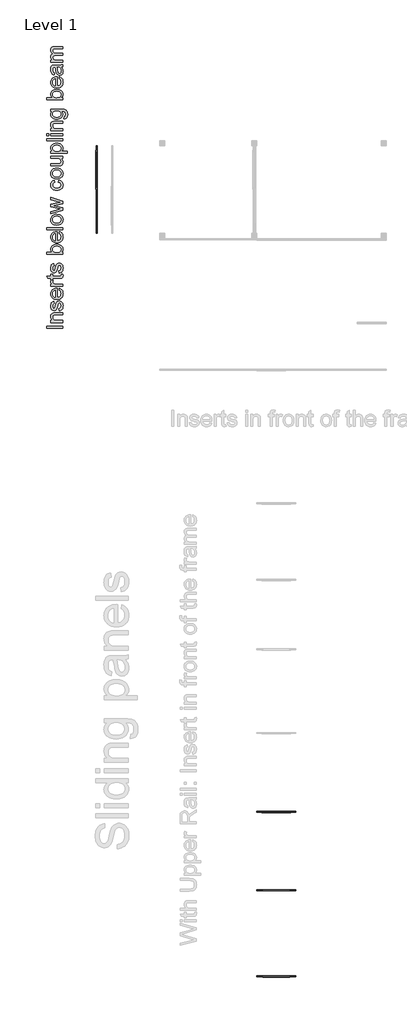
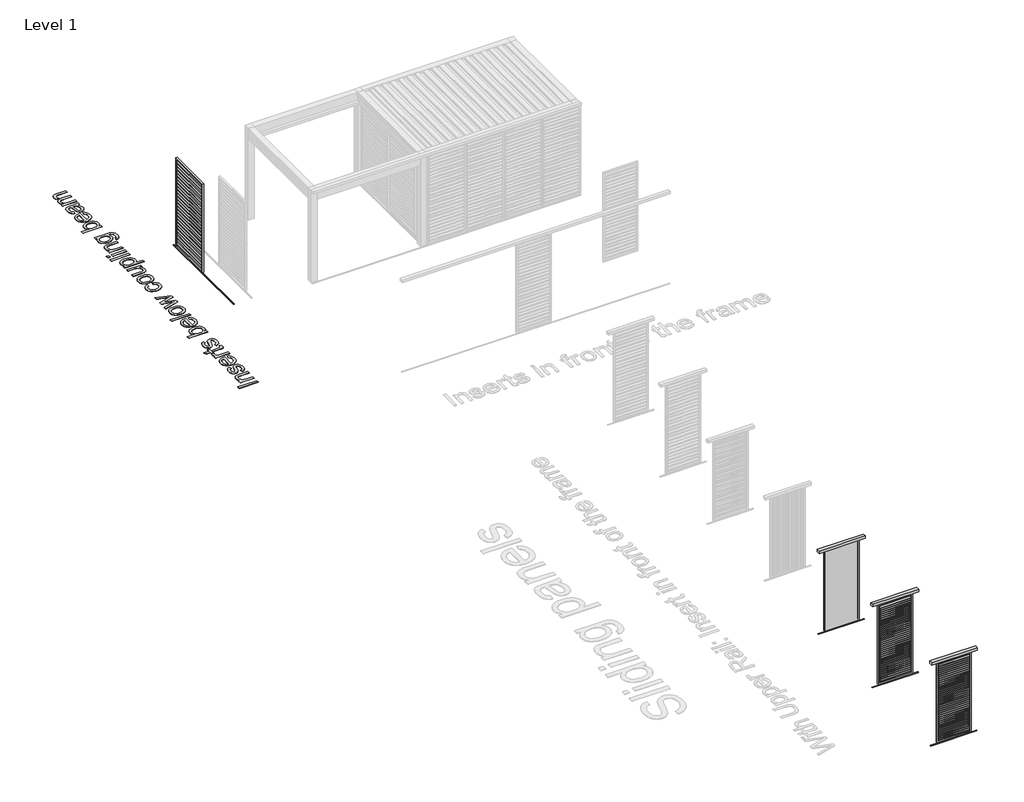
# One storey, part 23 of 80: 5 proxies.
"""IFC4 building model written with IfcOpenShell, lengths in millimetres."""

from ifc_helpers import new_model, si_unit, origin, origin_with_axes, place, context, project, spatial, polyline, outline, extrude, transform, mapped, element, save
from components import generic_models_cdf295df, generic_models_89bc0f4a, generic_models_1648a54b

model = new_model("IFC4")

# Units and contexts
model_context = context("Model", 3, world=origin())
ifc_project = project(units=[si_unit("LENGTHUNIT", "METRE", prefix="MILLI")], contexts=[model_context])

# Site, building, storey
site = spatial("IfcSite", under=ifc_project)
building = spatial("IfcBuilding", under=site)
storey = spatial("IfcBuildingStorey", under=building, Name="Level 1", Elevation=0.0)

# Proxies
placement = place(None, origin())
generic_models_shape = generic_models_cdf295df(model_context)
element("IfcBuildingElementProxy", 1, Name="Renson_Amani_Loggia_Paro_Aluminium_Sliding : Renson_Amani_Loggia_Paro_Aluminium_Sliding", ObjectType="Renson_Amani_Loggia_Paro_Aluminium_Sliding : Renson_Amani_Loggia_Paro_Aluminium_Sliding", at=placement, inside=storey, context=model_context, shape_type="MappedRepresentation", body=[
    mapped(generic_models_shape, transform((413556.3699543, -38944.9696571, 0.0), x_axis=(0.0, -1.0, 0.0), y_axis=(1.0, 0.0, 0.0), z_axis=(0.0, 0.0, 1.0))),
])
generic_models_2_shape = generic_models_89bc0f4a(model_context)
element("IfcBuildingElementProxy", 2, Name="Renson_Amani_Loggia_Canvas_Sliding : Renson_Amani_Loggia_Canvas_Sliding", ObjectType="Renson_Amani_Loggia_Canvas_Sliding : Renson_Amani_Loggia_Canvas_Sliding", at=placement, inside=storey, context=model_context, shape_type="MappedRepresentation", body=[
    mapped(generic_models_2_shape, transform((419110.5749426, -58798.6117458, 0.0), x_axis=(1.0, 0.0, 0.0), y_axis=(0.0, 1.0, 0.0), z_axis=(0.0, 0.0, 1.0))),
])
generic_models_3_shape = generic_models_1648a54b(model_context)
element("IfcBuildingElementProxy", 3, Name="Renson_Amani_Loggia_Paro_Privacy_Aluminium_Sliding : Renson_Amani_Loggia_Paro_Privacy_Aluminium_Sliding", ObjectType="Renson_Amani_Loggia_Paro_Privacy_Aluminium_Sliding : Renson_Amani_Loggia_Paro_Privacy_Aluminium_Sliding", at=placement, inside=storey, context=model_context, shape_type="MappedRepresentation", body=[
    mapped(generic_models_3_shape, transform((419110.5749426, -61223.4916306, 0.0), x_axis=(1.0, 0.0, 0.0), y_axis=(0.0, 1.0, 0.0), z_axis=(0.0, 0.0, 1.0))),
])
element("IfcBuildingElementProxy", 4, Name="Renson_Amani_Loggia_Paro_Privacy_Wood_Sliding : Renson_Amani_Loggia_Paro_Privacy_Wood_Sliding", ObjectType="Renson_Amani_Loggia_Paro_Privacy_Wood_Sliding : Renson_Amani_Loggia_Paro_Privacy_Wood_Sliding", at=placement, inside=storey, context=model_context, shape_type="MappedRepresentation", body=[
    mapped(generic_models_3_shape, transform((419110.5749426, -63882.1776025, 0.0), x_axis=(1.0, 0.0, 0.0), y_axis=(0.0, 1.0, 0.0), z_axis=(0.0, 0.0, 1.0))),
])
element("IfcBuildingElementProxy", 5, Name="500mm Arial", ObjectType="500mm Arial", at=placement, inside=storey, context=model_context, shape_type="SweptSolid", body=[
    extrude(outline(polyline([(412512.2046948, -43851.4920703), (412009.9231441, -43851.4920703), (412009.9231441, -43788.7068764), (412512.2046948, -43788.7068764), (412512.2046948, -43851.4920703)])), origin_with_axes(), (0.0, 0.0, 1.0), 5.0),
    extrude(outline(polyline([(412512.2046948, -43670.984638), (412143.341681, -43670.984638), (412143.341681, -43608.1994441), (412194.8451603, -43608.1994441), (412168.8788228, -43586.3871075), (412150.3314389, -43560.1908438), (412139.2030085, -43529.6106529), (412135.4935317, -43494.646535), (412138.482573, -43463.6984621), (412147.4496966, -43435.3562201), (412161.2759282, -43411.7198019), (412178.8422935, -43394.8892006), (412200.1028071, -43383.4695303), (412225.0114839, -43376.0659052), (412285.7120131, -43372.7549672), (412512.2046948, -43372.7549672), (412512.2046948, -43435.5401611), (412294.173299, -43435.5401611), (412261.7077129, -43437.3489142), (412238.6231177, -43442.7751736), (412222.0837564, -43452.7846296), (412209.2538718, -43468.3429723), (412201.0225121, -43488.2852421), (412198.2787256, -43511.4464794), (412199.8192314, -43530.5111974), (412204.440749, -43548.2193505), (412212.1432783, -43564.5709388), (412222.9268193, -43579.5659622), (412238.0176453, -43592.0931105), (412258.6420296, -43601.0410736), (412284.7999723, -43606.4098515), (412316.4914734, -43608.1994441), (412512.2046948, -43608.1994441), (412512.2046948, -43670.984638)])), origin_with_axes(), (0.0, 0.0, 1.0), 5.0),
    extrude(outline(polyline([(412402.3306056, -43309.9697734), (412394.4824563, -43247.1845795), (412421.337842, -43237.2824225), (412441.0808424, -43218.1219019), (412453.2209482, -43189.5803905), (412457.2676502, -43151.5352608), (412453.5581734, -43113.9499836), (412442.4297431, -43087.5237936), (412426.3042489, -43071.8888088), (412407.6035808, -43066.6771472), (412391.6007141, -43071.9194657), (412379.3992945, -43087.646421), (412361.4957041, -43152.2710248), (412344.9256859, -43209.5686455), (412330.7775575, -43246.8166975), (412315.3418421, -43270.7443556), (412294.909063, -43288.0807947), (412270.7821355, -43298.6114168), (412244.263975, -43302.1216241), (412219.9377781, -43299.3011955), (412197.4816479, -43290.8399096), (412177.7846328, -43277.5041873), (412161.7357807, -43260.0604494), (412151.6343543, -43242.7240103), (412143.15774, -43220.1452529), (412137.4095838, -43194.0409596), (412135.4935317, -43166.1279133), (412138.5745435, -43125.262355), (412147.8175786, -43089.7310856), (412162.3182606, -43061.1589173), (412181.1722128, -43041.1706622), (412205.7743212, -43027.9269104), (412237.5194717, -43019.5882519), (412245.367621, -43082.3734457), (412225.6092921, -43090.298237), (412210.7253998, -43105.9792071), (412201.3903941, -43129.56964), (412198.2787256, -43161.22282), (412201.2524384, -43197.2752555), (412210.1735768, -43221.3102125), (412223.0494466, -43234.8298759), (412237.8873537, -43239.3364303), (412247.5442561, -43237.4663635), (412256.1588262, -43231.8561631), (412263.8536912, -43222.2605744), (412270.0157146, -43208.4343427), (412283.3820938, -43154.3556894), (412312.9352807, -43062.2012496), (412327.0680807, -43037.8597243), (412346.4125423, -43019.4043109), (412371.0299792, -43007.7700428), (412400.9817049, -43003.8919534), (412431.9451062, -43008.4444931), (412461.0690975, -43022.1021122), (412486.0697447, -43044.3436444), (412504.6631139, -43074.6479238), (412516.2054115, -43111.2521823), (412520.052844, -43152.3936521), (412518.1981056, -43186.1851462), (412512.6338905, -43215.7000121), (412503.3601985, -43240.9382498), (412490.3770298, -43261.8998593), (412473.7456979, -43279.0217005), (412453.5275166, -43292.7406333), (412429.7224858, -43303.0566576), (412402.3306056, -43309.9697734)])), origin_with_axes(), (0.0, 0.0, 1.0), 5.0),
    extrude(outline(polyline([(412402.3306056, -42675.0054497), (412410.1787548, -42613.4465292), (412434.8345127, -42622.8850016), (412456.562543, -42635.6267478), (412475.3628458, -42651.6717677), (412491.2354211, -42671.0200614), (412503.8430436, -42693.4723594), (412512.8484883, -42718.8293924), (412518.2517551, -42747.0911602), (412520.052844, -42778.257663), (412516.9450076, -42817.2148335), (412507.6214983, -42851.9260326), (412492.0823161, -42882.3912603), (412470.327461, -42908.6105166), (412442.9624055, -42929.6947535), (412410.5926221, -42944.7549227), (412373.2181106, -42953.7910242), (412330.8388712, -42956.803058), (412287.0225927, -42953.7603673), (412248.4026474, -42944.6322953), (412214.9790353, -42929.418842), (412186.7517564, -42908.1200073), (412164.3262831, -42881.9697288), (412148.3080879, -42852.201944), (412138.6971708, -42818.816653), (412135.4935317, -42781.8138556), (412138.6895066, -42746.0028427), (412148.2774311, -42713.6177308), (412164.2573052, -42684.65852), (412186.6291291, -42659.1252102), (412214.7950943, -42638.282396), (412248.1573928, -42623.3946715), (412286.7160244, -42614.4620368), (412330.4709892, -42611.4844919), (412347.393561, -42611.8523739), (412347.393561, -42894.0178642), (412372.4478577, -42890.3811974), (412394.3904858, -42883.1500169), (412413.2214455, -42872.3243228), (412428.9407366, -42857.904115), (412441.3337613, -42840.6864712), (412450.1859218, -42821.468469), (412455.4972181, -42800.2501085), (412457.2676502, -42777.0313897), (412453.9873691, -42743.6154418), (412444.1465257, -42715.4724692), (412427.1319834, -42692.6024718), (412402.3306056, -42675.0054497)]), holes=[polyline([(412284.6083671, -42894.0178642), (412284.6083671, -42674.2696857), (412251.4376739, -42682.7616284), (412227.7092852, -42699.4082887), (412214.8334154, -42716.5301299), (412205.6363655, -42736.0125472), (412200.1181356, -42757.8555407), (412198.2787256, -42782.0591103), (412204.1495091, -42824.3808682), (412211.4879885, -42842.7941284), (412221.7618596, -42859.375643), (412234.4959416, -42873.290013), (412249.2150535, -42883.7018399), (412265.9191953, -42890.6111236), (412284.6083671, -42894.0178642)])]), origin_with_axes(), (0.0, 0.0, 1.0), 5.0),
    extrude(outline(polyline([(412459.8428242, -42179.8362842), (412514.0441048, -42171.988135), (412520.052844, -42218.954403), (412517.4470132, -42249.0900698), (412509.6295208, -42271.5615283), (412497.5813855, -42287.4417678), (412482.2836259, -42297.8037773), (412456.01072, -42303.5059482), (412411.0371461, -42305.4066719), (412206.1268748, -42305.4066719), (412206.1268748, -42352.4955673), (412154.8686502, -42352.4955673), (412143.341681, -42352.4955673), (412143.341681, -42305.4066719), (412053.7011015, -42305.4066719), (412016.7902746, -42242.621478), (412143.341681, -42242.621478), (412143.341681, -42179.8362842), (412206.1268748, -42179.8362842), (412206.1268748, -42242.621478), (412409.1977362, -42242.621478), (412441.5713517, -42239.3105401), (412453.0370072, -42228.5806486), (412457.2676502, -42207.1821792), (412459.8428242, -42179.8362842)])), origin_with_axes(), (0.0, 0.0, 1.0), 5.0),
    extrude(outline(polyline([(412512.2046948, -42548.699298), (412143.341681, -42548.699298), (412143.341681, -42493.7622534), (412197.9108436, -42493.7622534), (412166.272992, -42473.46743), (412147.6336376, -42454.7667619), (412138.5285582, -42436.0047802), (412135.4935317, -42415.5260158), (412140.3373113, -42384.2560462), (412154.8686502, -42352.4955673), (412211.1545954, -42373.464841), (412201.497693, -42395.5377607), (412198.2787256, -42417.6106804), (412201.3750657, -42436.3573337), (412210.6640861, -42453.1112929), (412225.4406796, -42466.6462847), (412244.999739, -42475.7360356), (412280.0711558, -42483.369587), (412318.3308833, -42485.9141042), (412512.2046948, -42485.9141042), (412512.2046948, -42548.699298)])), origin_with_axes(), (0.0, 0.0, 1.0), 5.0),
    extrude(outline(polyline([(412402.3306056, -42140.595538), (412394.4824563, -42077.8103442), (412421.337842, -42067.9081872), (412441.0808424, -42048.7476666), (412453.2209482, -42020.2061551), (412457.2676502, -41982.1610255), (412453.5581734, -41944.5757483), (412442.4297431, -41918.1495583), (412426.3042489, -41902.5145735), (412407.6035808, -41897.3029119), (412391.6007141, -41902.5452303), (412379.3992945, -41918.2721856), (412361.4957041, -41982.8967894), (412344.9256859, -42040.1944102), (412330.7775575, -42077.4424622), (412315.3418421, -42101.3701203), (412294.909063, -42118.7065593), (412270.7821355, -42129.2371814), (412244.263975, -42132.7473888), (412219.9377781, -42129.9269602), (412197.4816479, -42121.4656743), (412177.7846328, -42108.129952), (412161.7357807, -42090.686214), (412151.6343543, -42073.349775), (412143.15774, -42050.7710176), (412137.4095838, -42024.6667243), (412135.4935317, -41996.7536779), (412138.5745435, -41955.8881196), (412147.8175786, -41920.3568503), (412162.3182606, -41891.784682), (412181.1722128, -41871.7964269), (412205.7743212, -41858.5526751), (412237.5194717, -41850.2140165), (412245.367621, -41912.9992104), (412225.6092921, -41920.9240017), (412210.7253998, -41936.6049717), (412201.3903941, -41960.1954047), (412198.2787256, -41991.8485847), (412201.2524384, -42027.9010202), (412210.1735768, -42051.9359772), (412223.0494466, -42065.4556405), (412237.8873537, -42069.962195), (412247.5442561, -42068.0921282), (412256.1588262, -42062.4819277), (412263.8536912, -42052.886339), (412270.0157146, -42039.0601074), (412283.3820938, -41984.9814541), (412312.9352807, -41892.8270143), (412327.0680807, -41868.4854889), (412346.4125423, -41850.0300755), (412371.0299792, -41838.3958074), (412400.9817049, -41834.5177181), (412431.9451062, -41839.0702577), (412461.0690975, -41852.7278768), (412486.0697447, -41874.9694091), (412504.6631139, -41905.2736885), (412516.2054115, -41941.877947), (412520.052844, -41983.0194168), (412518.1981056, -42016.8109109), (412512.6338905, -42046.3257768), (412503.3601985, -42071.5640145), (412490.3770298, -42092.525624), (412473.7456979, -42109.6474652), (412453.5275166, -42123.3663979), (412429.7224858, -42133.6824222), (412402.3306056, -42140.595538)])), origin_with_axes(), (0.0, 0.0, 1.0), 5.0),
    extrude(outline(polyline([(412512.2046948, -41504.8954504), (412512.2046948, -41567.6806442), (412009.9231441, -41567.6806442), (412009.9231441, -41504.8954504), (412196.1940609, -41504.8954504), (412169.6375794, -41484.2480734), (412150.668664, -41460.933552), (412139.2873148, -41434.951886), (412135.4935317, -41406.3030757), (412138.9117686, -41373.9601169), (412149.1664792, -41343.3952545), (412165.6138701, -41316.3559278), (412187.6101477, -41294.5895765), (412214.9407143, -41277.5290489), (412247.3909719, -41264.6071939), (412283.6120201, -41256.4678047), (412322.254958, -41253.754675), (412366.8453215, -41256.5636073), (412406.0707392, -41264.9904043), (412439.9312112, -41279.0350659), (412468.4267374, -41298.6975921), (412491.013159, -41322.2995213), (412507.1463174, -41348.162392), (412516.8262124, -41376.2862041), (412520.052844, -41406.6709577), (412515.891179, -41436.2624657), (412503.4061838, -41462.4970504), (412482.5978584, -41485.374712), (412453.4662029, -41504.8954504), (412512.2046948, -41504.8954504)]), holes=[polyline([(412325.1980139, -41504.8954504), (412377.5598846, -41500.6034938), (412397.3948555, -41495.238548), (412412.9991834, -41487.7276239), (412432.3666376, -41472.5141706), (412446.2005335, -41454.8328422), (412454.500871, -41434.6836388), (412457.2676502, -41412.0665603), (412455.2289708, -41393.2892501), (412449.1129326, -41375.8301837), (412438.9195357, -41359.6893612), (412424.64878, -41344.8667825), (412406.3389865, -41332.4737578), (412384.0284763, -41323.6215973), (412357.7172495, -41318.3103009), (412327.4053059, -41316.5398688), (412296.5185467, -41318.237491), (412269.954401, -41323.3303573), (412247.7128687, -41331.818468), (412229.7939498, -41343.7018228), (412216.0060392, -41357.9917391), (412206.1575316, -41373.6995338), (412200.2484271, -41390.8252071), (412198.2787256, -41409.368759), (412200.317405, -41428.1460691), (412206.4334431, -41445.6051355), (412216.6268401, -41461.745958), (412230.8975958, -41476.5685367), (412249.0234483, -41488.9615615), (412270.7821355, -41497.813722), (412296.1736573, -41503.1250183), (412325.1980139, -41504.8954504)])]), origin_with_axes(), (0.0, 0.0, 1.0), 5.0),
    extrude(outline(polyline([(412402.3306056, -40924.8681713), (412410.1787548, -40863.3092508), (412434.8345127, -40872.7477232), (412456.562543, -40885.4894694), (412475.3628458, -40901.5344894), (412491.2354211, -40920.882783), (412503.8430436, -40943.3350811), (412512.8484883, -40968.692114), (412518.2517551, -40996.9538818), (412520.052844, -41028.1203846), (412516.9450076, -41067.0775551), (412507.6214983, -41101.7887542), (412492.0823161, -41132.2539819), (412470.327461, -41158.4732383), (412442.9624055, -41179.5574751), (412410.5926221, -41194.6176443), (412373.2181106, -41203.6537458), (412330.8388712, -41206.6657796), (412287.0225927, -41203.623089), (412248.4026474, -41194.4950169), (412214.9790353, -41179.2815636), (412186.7517564, -41157.9827289), (412164.3262831, -41131.8324504), (412148.3080879, -41102.0646657), (412138.6971708, -41068.6793746), (412135.4935317, -41031.6765772), (412138.6895066, -40995.8655643), (412148.2774311, -40963.4804524), (412164.2573052, -40934.5212416), (412186.6291291, -40908.9879319), (412214.7950943, -40888.1451176), (412248.1573928, -40873.2573931), (412286.7160244, -40864.3247584), (412330.4709892, -40861.3472135), (412347.393561, -40861.7150955), (412347.393561, -41143.8805858), (412372.4478577, -41140.243919), (412394.3904858, -41133.0127385), (412413.2214455, -41122.1870444), (412428.9407366, -41107.7668366), (412441.3337613, -41090.5491928), (412450.1859218, -41071.3311906), (412455.4972181, -41050.1128302), (412457.2676502, -41026.8941113), (412453.9873691, -40993.4781634), (412444.1465257, -40965.3351908), (412427.1319834, -40942.4651934), (412402.3306056, -40924.8681713)]), holes=[polyline([(412284.6083671, -41143.8805858), (412284.6083671, -40924.1324073), (412251.4376739, -40932.62435), (412227.7092852, -40949.2710103), (412214.8334154, -40966.3928515), (412205.6363655, -40985.8752688), (412200.1181356, -41007.7182623), (412198.2787256, -41031.9218319), (412204.1495091, -41074.2435898), (412211.4879885, -41092.6568501), (412221.7618596, -41109.2383646), (412234.4959416, -41123.1527346), (412249.2150535, -41133.5645615), (412265.9191953, -41140.4738452), (412284.6083671, -41143.8805858)])]), origin_with_axes(), (0.0, 0.0, 1.0), 5.0),
    extrude(outline(polyline([(412512.2046948, -40798.5620196), (412009.9231441, -40798.5620196), (412009.9231441, -40735.7768258), (412512.2046948, -40735.7768258), (412512.2046948, -40798.5620196)])), origin_with_axes(), (0.0, 0.0, 1.0), 5.0),
    extrude(outline(polyline([(412327.7731879, -40657.2953335), (412280.002178, -40653.9000892), (412238.8377156, -40643.7143565), (412204.2798006, -40626.7381353), (412176.3284332, -40602.9714255), (412158.4631638, -40579.0437674), (412145.7022571, -40552.6329059), (412138.0457131, -40523.7388408), (412135.4935317, -40492.3615723), (412138.6013682, -40457.7231832), (412147.9248775, -40426.4033963), (412163.4640597, -40398.4022115), (412185.2189148, -40373.7196289), (412212.4536787, -40353.5742575), (412244.4325876, -40339.1847066), (412281.1556413, -40330.550976), (412322.62284, -40327.6730658), (412386.0518273, -40332.7621001), (412412.0871427, -40339.1233929), (412434.3363392, -40348.0292029), (412453.5543413, -40359.368399), (412470.4960736, -40373.0298501), (412485.1615361, -40389.0135564), (412497.5507287, -40407.3195178), (412514.4273152, -40448.0471203), (412520.052844, -40492.3615723), (412516.9565039, -40527.5057992), (412507.6674835, -40559.116826), (412492.1857829, -40587.1946529), (412470.511402, -40611.7392798), (412443.0122229, -40631.6700533), (412410.0561275, -40645.9063201), (412371.6431158, -40654.4480801), (412327.7731879, -40657.2953335)]), holes=[polyline([(412327.6505606, -40594.5101396), (412358.104292, -40592.6937223), (412384.4730004, -40587.2444702), (412406.7566858, -40578.1623835), (412424.9553483, -40565.447462), (412439.0919804, -40549.9810898), (412449.1895747, -40532.6446508), (412455.2481313, -40513.438145), (412457.2676502, -40492.3615723), (412455.236635, -40471.3922986), (412449.1435895, -40452.2624348), (412438.9885136, -40434.9719811), (412424.7714073, -40419.5209373), (412406.3926359, -40406.8060158), (412383.7525648, -40397.7239291), (412356.8511939, -40392.274677), (412325.6885232, -40390.4582597), (412296.2004821, -40392.2861733), (412270.5215524, -40397.7699143), (412248.6517342, -40406.9094826), (412230.5910275, -40419.7048783), (412216.4543954, -40435.2134036), (412206.3568011, -40452.4923611), (412200.2982445, -40471.5417507), (412198.2787256, -40492.3615723), (412200.2905802, -40513.438145), (412206.3261442, -40532.6446508), (412216.3854175, -40549.9810898), (412230.4684002, -40565.447462), (412248.6134132, -40578.1623835), (412270.8587776, -40587.2444702), (412297.2044934, -40592.6937223), (412327.6505606, -40594.5101396)])]), origin_with_axes(), (0.0, 0.0, 1.0), 5.0),
    extrude(outline(polyline([(412512.2046948, -40195.8486842), (412143.341681, -40308.0526927), (412143.341681, -40242.8149523), (412358.5526482, -40179.1713671), (412435.4399851, -40160.1641307), (412361.3730768, -40144.5904595), (412143.341681, -40093.9453715), (412143.341681, -40019.1426992), (412360.7599401, -39968.7428659), (412427.8370906, -39954.8859774), (412357.0811202, -39935.0203496), (412143.341681, -39871.2541371), (412143.341681, -39805.771142), (412512.2046948, -39918.8335418), (412512.2046948, -39994.7398602), (412295.8900816, -40042.9324015), (412228.4450492, -40056.9119174), (412512.2046948, -40119.0839745), (412512.2046948, -40195.8486842)])), origin_with_axes(), (0.0, 0.0, 1.0), 5.0),
    extrude(outline(polyline([(412378.7861579, -39330.9581135), (412386.6343071, -39268.1729197), (412416.260304, -39275.0017292), (412442.4757283, -39285.6779713), (412465.2805799, -39300.2016459), (412484.6748588, -39318.572753), (412500.1527274, -39340.0172077), (412511.2083477, -39363.7609248), (412517.84172, -39389.8039044), (412520.052844, -39418.1461464), (412516.9680002, -39453.3593511), (412507.7134688, -39484.9320569), (412492.2892497, -39512.8642638), (412470.695343, -39537.1559718), (412443.3379517, -39556.8184981), (412410.6232789, -39570.8631597), (412372.5513245, -39579.2899566), (412329.1220885, -39582.0988889), (412273.2500105, -39577.3010946), (412224.8275429, -39562.9077115), (412203.8774297, -39552.0551926), (412185.7247525, -39538.6888135), (412170.3695113, -39522.808574), (412157.8117061, -39504.4144743), (412141.0730753, -39463.4109602), (412135.4935317, -39419.0045377), (412137.4095838, -39391.1489729), (412143.15774, -39365.9528883), (412152.7380003, -39343.416284), (412166.1503647, -39323.53916), (412183.0882649, -39306.6587413), (412203.2451325, -39293.1122533), (412226.6209676, -39282.8996958), (412253.2157702, -39276.0210689), (412261.0639194, -39338.8062628), (412233.6720392, -39350.1952762), (412214.0363377, -39367.9302541), (412202.2181286, -39391.0301777), (412198.2787256, -39418.5140284), (412200.2177703, -39439.847352), (412206.0349043, -39459.0883468), (412215.7301277, -39476.2370127), (412229.3034405, -39491.2933498), (412247.0690752, -39503.5522508), (412269.3412643, -39512.3086088), (412296.1200079, -39517.5624235), (412327.4053059, -39519.3136951), (412359.1619527, -39517.6007445), (412386.2510967, -39512.4618929), (412408.6727379, -39503.8971402), (412426.4268763, -39491.9064864), (412439.9197149, -39477.1490535), (412449.5574567, -39460.2839633), (412455.3401018, -39441.3112158), (412457.2676502, -39420.230811), (412452.4545274, -39387.7192397), (412438.0151591, -39361.0631235), (412427.0936624, -39350.2834146), (412413.5816633, -39341.6726767), (412378.7861579, -39330.9581135)])), origin_with_axes(), (0.0, 0.0, 1.0), 5.0),
    extrude(outline(polyline([(412327.7731879, -39228.9321736), (412280.002178, -39225.5369293), (412238.8377156, -39215.3511966), (412204.2798006, -39198.3749753), (412176.3284332, -39174.6082656), (412158.4631638, -39150.6806075), (412145.7022571, -39124.2697459), (412138.0457131, -39095.3756809), (412135.4935317, -39063.9984124), (412138.6013682, -39029.3600233), (412147.9248775, -38998.0402363), (412163.4640597, -38970.0390515), (412185.2189148, -38945.3564689), (412212.4536787, -38925.2110976), (412244.4325876, -38910.8215466), (412281.1556413, -38902.1878161), (412322.62284, -38899.3099059), (412386.0518273, -38904.3989401), (412412.0871427, -38910.760233), (412434.3363392, -38919.6660429), (412453.5543413, -38931.005239), (412470.4960736, -38944.6666902), (412485.1615361, -38960.6503965), (412497.5507287, -38978.9563578), (412514.4273152, -39019.6839604), (412520.052844, -39063.9984124), (412516.9565039, -39099.1426392), (412507.6674835, -39130.7536661), (412492.1857829, -39158.8314929), (412470.511402, -39183.3761198), (412443.0122229, -39203.3068933), (412410.0561275, -39217.5431601), (412371.6431158, -39226.0849202), (412327.7731879, -39228.9321736)]), holes=[polyline([(412327.6505606, -39166.1469797), (412358.104292, -39164.3305624), (412384.4730004, -39158.8813103), (412406.7566858, -39149.7992235), (412424.9553483, -39137.0843021), (412439.0919804, -39121.6179299), (412449.1895747, -39104.2814909), (412455.2481313, -39085.074985), (412457.2676502, -39063.9984124), (412455.236635, -39043.0291387), (412449.1435895, -39023.8992749), (412438.9885136, -39006.6088211), (412424.7714073, -38991.1577773), (412406.3926359, -38978.4428559), (412383.7525648, -38969.3607691), (412356.8511939, -38963.9115171), (412325.6885232, -38962.0950997), (412296.2004821, -38963.9230134), (412270.5215524, -38969.4067544), (412248.6517342, -38978.5463227), (412230.5910275, -38991.3417183), (412216.4543954, -39006.8502437), (412206.3568011, -39024.1292012), (412200.2982445, -39043.1785907), (412198.2787256, -39063.9984124), (412200.2905802, -39085.074985), (412206.3261442, -39104.2814909), (412216.3854175, -39121.6179299), (412230.4684002, -39137.0843021), (412248.6134132, -39149.7992235), (412270.8587776, -39158.8813103), (412297.2044934, -39164.3305624), (412327.6505606, -39166.1469797)])]), origin_with_axes(), (0.0, 0.0, 1.0), 5.0),
    extrude(outline(polyline([(412512.2046948, -38593.2320859), (412448.8063643, -38593.2320859), (412479.9766992, -38615.9487991), (412502.2412241, -38642.4056459), (412515.5999391, -38672.6026263), (412520.052844, -38706.5397404), (412516.9258471, -38737.1199312), (412507.5448562, -38765.5848006), (412493.442713, -38789.4664735), (412476.1522593, -38806.2970748), (412455.1523287, -38817.6247745), (412429.9217552, -38824.9977428), (412371.5511453, -38828.6765628), (412143.341681, -38828.6765628), (412143.341681, -38765.891369), (412341.9979584, -38765.891369), (412406.0094255, -38762.0899217), (412427.3619097, -38752.938857), (412443.5947027, -38737.257887), (412453.8494133, -38716.0893439), (412457.2676502, -38690.4755599), (412453.7727712, -38663.390248), (412443.2881344, -38638.0523756), (412426.7794298, -38617.159744), (412405.2123479, -38603.4101544), (412375.6744893, -38595.776603), (412335.2534551, -38593.2320859), (412143.341681, -38593.2320859), (412143.341681, -38530.446892), (412512.2046948, -38530.446892), (412512.2046948, -38593.2320859)])), origin_with_axes(), (0.0, 0.0, 1.0), 5.0),
    extrude(outline(polyline([(412653.471381, -38444.1172505), (412143.341681, -38444.1172505), (412143.341681, -38381.3320567), (412204.9006015, -38381.3320567), (412174.5350085, -38360.8532923), (412152.8452992, -38337.9219812), (412139.8314736, -38311.1892229), (412135.4935317, -38279.3061167), (412137.011045, -38257.4094737), (412141.5635847, -38236.8464031), (412149.1511508, -38217.6169046), (412159.7737434, -38199.7209784), (412173.155451, -38183.549499), (412189.020362, -38169.4933411), (412228.1997945, -38147.7269897), (412274.4609554, -38134.5752084), (412324.9527593, -38130.1912813), (412378.6482021, -38135.1423598), (412426.6721309, -38149.9955954), (412447.947973, -38161.0167268), (412466.5873274, -38174.275807), (412482.5901942, -38189.7728361), (412495.9565733, -38207.5078139), (412514.0287764, -38246.2120655), (412520.052844, -38286.9090112), (412516.0214705, -38315.7724194), (412503.9273499, -38341.5394875), (412485.6712059, -38363.5970788), (412463.1537621, -38381.3320567), (412653.471381, -38381.3320567), (412653.471381, -38444.1172505)]), holes=[polyline([(412330.7162438, -38381.3320567), (412360.974538, -38379.6344345), (412387.0021891, -38374.5415682), (412408.7991973, -38366.0534576), (412426.3655626, -38354.1701027), (412439.8852259, -38339.864858), (412449.5421283, -38324.111078), (412455.3362697, -38306.9087626), (412457.2676502, -38288.2579119), (412455.2672918, -38269.3388139), (412449.2662168, -38251.8222659), (412439.2644251, -38235.7082681), (412425.2619166, -38220.9968204), (412407.0594221, -38208.7379194), (412384.457672, -38199.9815615), (412357.4566664, -38194.7277467), (412326.0564052, -38192.9764751), (412296.0586942, -38194.6855936), (412270.0770283, -38199.8129489), (412248.1114075, -38208.3585411), (412230.1618318, -38220.3223701), (412216.2129729, -38234.6621037), (412206.2495021, -38250.3354095), (412200.2714197, -38267.3422876), (412198.2787256, -38285.6827379), (412200.3978792, -38303.9657067), (412206.7553399, -38321.168022), (412217.3511078, -38337.2896841), (412232.1851828, -38352.3306927), (412251.0582956, -38365.0187894), (412273.7711767, -38374.0817157), (412300.3238261, -38379.5194714), (412330.7162438, -38381.3320567)])]), origin_with_axes(), (0.0, 0.0, 1.0), 5.0),
    extrude(outline(polyline([(412512.2046948, -38059.5579382), (412009.9231441, -38059.5579382), (412009.9231441, -37996.7727444), (412512.2046948, -37996.7727444), (412512.2046948, -38059.5579382)])), origin_with_axes(), (0.0, 0.0, 1.0), 5.0),
    extrude(outline(polyline([(412512.2046948, -37902.5949536), (412143.341681, -37902.5949536), (412143.341681, -37839.8097598), (412512.2046948, -37839.8097598), (412512.2046948, -37902.5949536)])), origin_with_axes(), (0.0, 0.0, 1.0), 5.0),
    extrude(outline(polyline([(412072.7083379, -37902.5949536), (412009.9231441, -37902.5949536), (412009.9231441, -37839.8097598), (412072.7083379, -37839.8097598), (412072.7083379, -37902.5949536)])), origin_with_axes(), (0.0, 0.0, 1.0), 5.0),
    extrude(outline(polyline([(412512.2046948, -37745.631969), (412143.341681, -37745.631969), (412143.341681, -37682.8467752), (412194.8451603, -37682.8467752), (412168.8788228, -37661.0344385), (412150.3314389, -37634.8381748), (412139.2030085, -37604.2579839), (412135.4935317, -37569.293866), (412138.482573, -37538.3457931), (412147.4496966, -37510.0035511), (412161.2759282, -37486.3671329), (412178.8422935, -37469.5365316), (412200.1028071, -37458.1168614), (412225.0114839, -37450.7132362), (412285.7120131, -37447.4022982), (412512.2046948, -37447.4022982), (412512.2046948, -37510.1874921), (412294.173299, -37510.1874921), (412261.7077129, -37511.9962452), (412238.6231177, -37517.4225047), (412222.0837564, -37527.4319606), (412209.2538718, -37542.9903033), (412201.0225121, -37562.9325731), (412198.2787256, -37586.0938104), (412199.8192314, -37605.1585284), (412204.440749, -37622.8666815), (412212.1432783, -37639.2182698), (412222.9268193, -37654.2132932), (412238.0176453, -37666.7404416), (412258.6420296, -37675.6884047), (412284.7999723, -37681.0571825), (412316.4914734, -37682.8467752), (412512.2046948, -37682.8467752), (412512.2046948, -37745.631969)])), origin_with_axes(), (0.0, 0.0, 1.0), 5.0),
    extrude(outline(polyline([(412543.5972917, -37376.7689552), (412551.445441, -37313.9837613), (412571.065814, -37307.0553171), (412584.5548205, -37293.6276243), (412595.0394574, -37267.2320911), (412598.5343363, -37232.6818404), (412594.5796049, -37195.8323272), (412582.7154105, -37168.4251186), (412563.7081741, -37149.4178821), (412538.3243165, -37137.7682856), (412511.3156466, -37134.3653772), (412465.1157994, -37133.476329), (412485.7171912, -37154.3689607), (412500.432471, -37177.6834821), (412509.2616388, -37203.4198934), (412512.2046948, -37231.5781944), (412508.7787937, -37266.0019857), (412498.5010905, -37296.3100971), (412481.3715851, -37322.5025288), (412457.3902775, -37344.5792806), (412428.6188398, -37362.0958285), (412397.118944, -37374.6076484), (412362.89059, -37382.1147404), (412325.9337779, -37384.6171044), (412275.2427047, -37380.1258784), (412228.6289902, -37366.6522003), (412189.127661, -37344.6712511), (412173.1822757, -37330.6687426), (412159.7737434, -37314.6582116), (412149.1511508, -37296.8964091), (412141.5635847, -37277.6400859), (412137.011045, -37256.8892421), (412135.4935317, -37234.6438777), (412138.927097, -37205.282296), (412149.2277929, -37178.6338439), (412166.3956193, -37154.6985216), (412190.4305764, -37133.476329), (412143.341681, -37133.476329), (412143.341681, -37070.6911352), (412461.8048615, -37070.6911352), (412535.3352753, -37074.9830918), (412562.6850023, -37080.3480376), (412583.7577429, -37087.8589616), (412615.8707754, -37110.0391802), (412640.4728838, -37142.2441832), (412649.5932916, -37161.9297021), (412656.1078686, -37183.7688634), (412661.3195302, -37233.9081137), (412659.4839523, -37264.6684134), (412653.9772187, -37292.3247089), (412644.7993293, -37316.8769999), (412631.9502842, -37338.3252867), (412615.414755, -37355.6502294), (412595.1774131, -37367.8324884), (412571.2382587, -37374.8720636), (412543.5972917, -37376.7689552)]), holes=[polyline([(412321.6418213, -37321.8319106), (412352.6856967, -37320.1572811), (412379.230682, -37315.1333926), (412401.2767769, -37306.7602451), (412418.8239817, -37295.0378386), (412432.2095214, -37280.7862434), (412441.7706211, -37264.8255297), (412447.507281, -37247.1556976), (412449.419501, -37227.7767471), (412447.5187773, -37208.5894018), (412441.8166064, -37191.003876), (412432.3129882, -37175.0201697), (412419.0079227, -37160.638283), (412401.6331626, -37148.7549281), (412379.9204607, -37140.2668175), (412353.8698169, -37135.1739511), (412323.4812313, -37133.476329), (412294.3610721, -37135.2237685), (412269.0500244, -37140.4660869), (412247.5480882, -37149.2032843), (412229.8552635, -37161.4353607), (412216.0405282, -37176.1276478), (412206.1728601, -37192.2454778), (412200.2522592, -37209.7888504), (412198.2787256, -37228.7577658), (412200.2216024, -37247.4086165), (412206.0502327, -37264.6109319), (412215.7646167, -37280.3647119), (412229.3647542, -37294.6699566), (412246.7893316, -37306.5533114), (412267.9770353, -37315.0414221), (412292.9278652, -37320.1342884), (412321.6418213, -37321.8319106)])]), origin_with_axes(), (0.0, 0.0, 1.0), 5.0),
    extrude(outline(polyline([(412512.2046948, -36717.5244198), (412512.2046948, -36780.3096137), (412009.9231441, -36780.3096137), (412009.9231441, -36717.5244198), (412196.1940609, -36717.5244198), (412169.6375794, -36696.8770428), (412150.668664, -36673.5625214), (412139.2873148, -36647.5808555), (412135.4935317, -36618.9320451), (412138.9117686, -36586.5890864), (412149.1664792, -36556.0242239), (412165.6138701, -36528.9848973), (412187.6101477, -36507.2185459), (412214.9407143, -36490.1580184), (412247.3909719, -36477.2361633), (412283.6120201, -36469.0967742), (412322.254958, -36466.3836444), (412366.8453215, -36469.1925768), (412406.0707392, -36477.6193737), (412439.9312112, -36491.6640353), (412468.4267374, -36511.3265615), (412491.013159, -36534.9284908), (412507.1463174, -36560.7913614), (412516.8262124, -36588.9151736), (412520.052844, -36619.2999271), (412515.891179, -36648.8914351), (412503.4061838, -36675.1260199), (412482.5978584, -36698.0036814), (412453.4662029, -36717.5244198), (412512.2046948, -36717.5244198)]), holes=[polyline([(412325.1980139, -36717.5244198), (412377.5598846, -36713.2324632), (412397.3948555, -36707.8675174), (412412.9991834, -36700.3565934), (412432.3666376, -36685.14314), (412446.2005335, -36667.4618116), (412454.500871, -36647.3126082), (412457.2676502, -36624.6955297), (412455.2289708, -36605.9182195), (412449.1129326, -36588.4591532), (412438.9195357, -36572.3183306), (412424.64878, -36557.4957519), (412406.3389865, -36545.1027272), (412384.0284763, -36536.2505667), (412357.7172495, -36530.9392704), (412327.4053059, -36529.1688383), (412296.5185467, -36530.8664604), (412269.954401, -36535.9593268), (412247.7128687, -36544.4474374), (412229.7939498, -36556.3307923), (412216.0060392, -36570.6207085), (412206.1575316, -36586.3285033), (412200.2484271, -36603.4541766), (412198.2787256, -36621.9977284), (412200.317405, -36640.7750386), (412206.4334431, -36658.2341049), (412216.6268401, -36674.3749275), (412230.8975958, -36689.1975062), (412249.0234483, -36701.5905309), (412270.7821355, -36710.4426914), (412296.1736573, -36715.7539877), (412325.1980139, -36717.5244198)])]), origin_with_axes(), (0.0, 0.0, 1.0), 5.0),
    extrude(outline(polyline([(412402.3306056, -36137.4971407), (412410.1787548, -36075.9382202), (412434.8345127, -36085.3766927), (412456.562543, -36098.1184388), (412475.3628458, -36114.1634588), (412491.2354211, -36133.5117525), (412503.8430436, -36155.9640505), (412512.8484883, -36181.3210834), (412518.2517551, -36209.5828513), (412520.052844, -36240.7493541), (412516.9450076, -36279.7065245), (412507.6214983, -36314.4177236), (412492.0823161, -36344.8829513), (412470.327461, -36371.1022077), (412442.9624055, -36392.1864445), (412410.5926221, -36407.2466137), (412373.2181106, -36416.2827152), (412330.8388712, -36419.2947491), (412287.0225927, -36416.2520584), (412248.4026474, -36407.1239864), (412214.9790353, -36391.910533), (412186.7517564, -36370.6116984), (412164.3262831, -36344.4614199), (412148.3080879, -36314.6936351), (412138.6971708, -36281.308344), (412135.4935317, -36244.3055467), (412138.6895066, -36208.4945337), (412148.2774311, -36176.1094218), (412164.2573052, -36147.150211), (412186.6291291, -36121.6169013), (412214.7950943, -36100.774087), (412248.1573928, -36085.8863625), (412286.7160244, -36076.9537278), (412330.4709892, -36073.9761829), (412347.393561, -36074.3440649), (412347.393561, -36356.5095552), (412372.4478577, -36352.8728884), (412394.3904858, -36345.6417079), (412413.2214455, -36334.8160138), (412428.9407366, -36320.395806), (412441.3337613, -36303.1781622), (412450.1859218, -36283.9601601), (412455.4972181, -36262.7417996), (412457.2676502, -36239.5230807), (412453.9873691, -36206.1071328), (412444.1465257, -36177.9641602), (412427.1319834, -36155.0941629), (412402.3306056, -36137.4971407)]), holes=[polyline([(412284.6083671, -36356.5095552), (412284.6083671, -36136.7613768), (412251.4376739, -36145.2533195), (412227.7092852, -36161.8999798), (412214.8334154, -36179.021821), (412205.6363655, -36198.5042383), (412200.1181356, -36220.3472317), (412198.2787256, -36244.5508013), (412204.1495091, -36286.8725592), (412211.4879885, -36305.2858195), (412221.7618596, -36321.867334), (412234.4959416, -36335.781704), (412249.2150535, -36346.1935309), (412265.9191953, -36353.1028147), (412284.6083671, -36356.5095552)])]), origin_with_axes(), (0.0, 0.0, 1.0), 5.0),
    extrude(outline(polyline([(412465.1157994, -35775.7465122), (412490.8368823, -35805.7442232), (412507.6674835, -35836.6309824), (412516.9565039, -35869.1118969), (412520.052844, -35903.8920738), (412518.1904414, -35931.8472733), (412512.6032336, -35956.3612434), (412503.2912206, -35977.4339839), (412490.2544024, -35995.0654949), (412474.3205135, -36008.9875292), (412456.3172884, -36018.9318394), (412436.244727, -36024.8984255), (412414.1028294, -36026.8872875), (412388.0751783, -36023.8829179), (412364.4387601, -36014.869809), (412344.2052503, -36000.9669353), (412328.3863245, -35983.2932711), (412316.4301597, -35962.5232668), (412307.7849328, -35939.3313727), (412298.3426283, -35885.0074647), (412288.4098144, -35820.8120566), (412276.7602179, -35776.1143942), (412262.7807021, -35775.7465122), (412234.7603568, -35780.0691256), (412216.4275707, -35793.0369659), (412208.487451, -35806.1121052), (412202.8159369, -35822.0383299), (412198.2787256, -35862.4440357), (412201.2984236, -35899.8453719), (412210.3575178, -35925.9649935), (412227.111477, -35943.7766135), (412253.2157702, -35956.2539445), (412245.367621, -36019.0391383), (412211.0319681, -36008.1406342), (412184.0539551, -35991.8771843), (412163.4219065, -35968.7312755), (412148.1241469, -35937.1853944), (412138.6511855, -35898.6037701), (412135.4935317, -35854.3506318), (412138.2833035, -35811.9062466), (412146.6526189, -35778.2603725), (412159.2372488, -35752.8918432), (412174.6729642, -35735.2794927), (412193.7568427, -35723.5992393), (412217.285962, -35716.0270016), (412272.2230066, -35712.9613183), (412350.3366169, -35712.9613183), (412459.4136285, -35709.7730077), (412486.3763131, -35705.0518554), (412512.2046948, -35697.2650199), (412512.2046948, -35760.0502137), (412490.3770298, -35770.1056549), (412465.1157994, -35775.7465122)]), holes=[polyline([(412339.5454117, -35775.7465122), (412349.9993918, -35817.9303143), (412358.7979028, -35877.0366882), (412368.9759713, -35931.0540278), (412375.9350724, -35945.1101857), (412385.5306611, -35955.5181805), (412397.0269735, -35961.9561154), (412409.6882455, -35964.1020937), (412428.3582567, -35959.4269267), (412443.6560164, -35945.4014256), (412453.8647417, -35922.3321588), (412457.2676502, -35890.5256947), (412453.5121882, -35856.8031784), (412442.2458021, -35827.0047368), (412425.645127, -35802.8471525), (412405.8867982, -35786.047208), (412385.5306611, -35778.5975976), (412357.3263748, -35776.1143942), (412339.5454117, -35775.7465122)])]), origin_with_axes(), (0.0, 0.0, 1.0), 5.0),
    extrude(outline(polyline([(412512.2046948, -35626.6316768), (412143.341681, -35626.6316768), (412143.341681, -35563.8464829), (412204.0422102, -35563.8464829), (412176.1598206, -35544.9618739), (412154.3168272, -35520.6816622), (412140.1993556, -35491.8335824), (412135.4935317, -35459.245369), (412140.2913261, -35424.3272363), (412154.6847092, -35396.3375478), (412177.7233191, -35375.4295877), (412208.4567941, -35361.7566403), (412176.5353668, -35338.8713145), (412153.7343473, -35312.7670212), (412140.0537356, -35283.4437605), (412135.4935317, -35250.9015324), (412137.3904233, -35225.7667615), (412143.0810979, -35203.7053381), (412152.5655556, -35184.7172622), (412165.8437963, -35168.8025338), (412183.0691043, -35156.221736), (412204.3947638, -35147.2354518), (412229.8207746, -35141.8436813), (412259.3471368, -35140.0464245), (412512.2046948, -35140.0464245), (412512.2046948, -35202.8316183), (412286.3251498, -35202.8316183), (412255.0091949, -35204.2878179), (412233.9019655, -35208.6564166), (412219.4472687, -35216.841791), (412208.0889121, -35229.7483176), (412200.7312722, -35246.3489927), (412198.2787256, -35265.6168122), (412199.8498883, -35283.4092716), (412204.5633763, -35299.6305683), (412212.4191898, -35314.2807024), (412223.4173286, -35327.3596737), (412237.8796895, -35338.11639), (412256.1281693, -35345.7997587), (412278.162768, -35350.40978), (412303.9834855, -35351.9464537), (412512.2046948, -35351.9464537), (412512.2046948, -35414.7316476), (412279.3353919, -35414.7316476), (412243.8347793, -35418.3644823), (412218.5122353, -35429.2629864), (412209.6600748, -35437.6897833), (412203.337103, -35448.4388354), (412198.2787256, -35476.9037047), (412201.6509772, -35501.0919459), (412211.7677321, -35523.3794635), (412228.3837355, -35541.7735632), (412251.2537329, -35554.2815511), (412282.983555, -35561.45525), (412326.1790326, -35563.8464829), (412512.2046948, -35563.8464829), (412512.2046948, -35626.6316768)])), origin_with_axes(), (0.0, 0.0, 1.0), 5.0),
])

save(model, "model.ifc")
